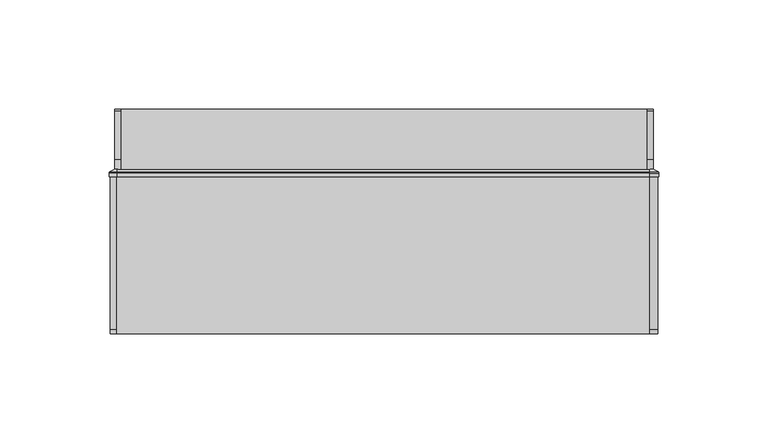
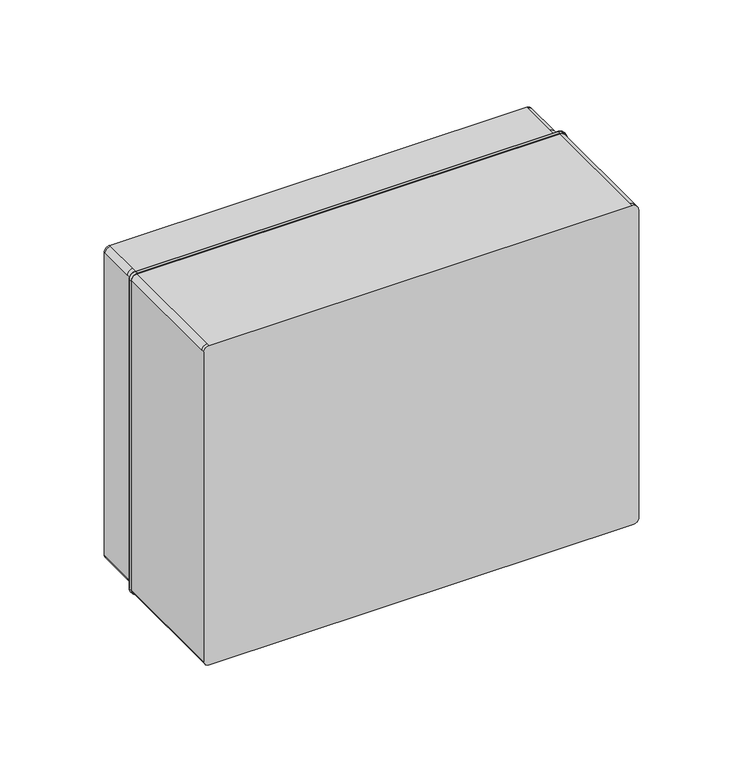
"""IFC4 building model written with IfcOpenShell, lengths in millimetres: proxy geometry, ЩРН-П-12_15_IP65 : ЩРН-П-12_IP65."""

from ifc_helpers import new_model, si_unit, point, frame, origin, place, context, project, spatial, polyline, circle_curve, ellipse_curve, trimmed, outline, extrude, source, transform, mapped, element, save
from ifc_brep_helpers import plane_surface, cylinder_surface, revolved_surface, advanced_brep


def electrical_equipment_db0b3651(model_context):
    return source(origin(), model_context, "Body", "SolidModel", [
        extrude(outline(polyline([(116.5, 83.0), (-116.5, 83.0), (-116.5, 103.0), (116.5, 103.0), (116.5, 83.0)])), frame((0.0, 0.0, -57.5), z_axis=(0.0, 0.0, 1.0), x_axis=(1.0, 0.0, 0.0)), (0.0, 0.0, 1.0), 115.0),
        advanced_brep(
        [(121.5283006, 72.0, 97.5), (125.5, 72.0, 93.5283006), (125.5, 72.0, -94.5), (122.5, 72.0, -97.5), (-122.5, 72.0, -97.5), (-125.5, 72.0, -94.5), (-125.5, 72.0, 94.5), (-122.5, 72.0, 97.5), (-122.5, 2.0, 97.5), (-122.5, 0.0, 97.5), (121.5283006, 0.0, 97.5), (121.5283006, 2.0, 97.5), (-125.5, 2.0, 94.5), (-125.5, 2.0, -94.5), (-125.5, 0.0, -94.5), (-125.5, 0.0, 94.5), (-122.5, 2.0, -97.5), (122.5, 2.0, -97.5), (122.5, 0.0, -97.5), (-122.5, 0.0, -97.5), (125.5, 2.0, -94.5), (125.5, 2.0, 93.5283006), (125.5, 0.0, 93.5283006), (125.5, 0.0, -94.5)],
        [
            (0, 1, circle_curve(frame((121.5283006, 72.0, 93.5283006), z_axis=(0.0, 1.0, 0.0), x_axis=(1.0, 0.0, 0.0)), 3.9716994)),
            (1, 2),
            (2, 3, circle_curve(frame((122.5, 72.0, -94.5), z_axis=(0.0, 1.0, 0.0), x_axis=(1.0, 0.0, 0.0)), 3.0)),
            (3, 4),
            (4, 5, circle_curve(frame((-122.5, 72.0, -94.5), z_axis=(0.0, 1.0, 0.0), x_axis=(1.0, 0.0, 0.0)), 3.0)),
            (5, 6),
            (6, 7, circle_curve(frame((-122.5, 72.0, 94.5), z_axis=(0.0, 1.0, 0.0), x_axis=(1.0, 0.0, 0.0)), 3.0)),
            (7, 0),
            (7, 8),
            (8, 9),
            (9, 10),
            (10, 11),
            (11, 0),
            (6, 12),
            (12, 8, circle_curve(frame((-122.5, 2.0, 94.5), z_axis=(0.0, 1.0, 0.0), x_axis=(1.0, 0.0, 0.0)), 3.0)),
            (5, 13),
            (13, 14),
            (14, 15),
            (15, 12),
            (4, 16),
            (16, 13, circle_curve(frame((-122.5, 2.0, -94.5), z_axis=(0.0, 1.0, 0.0), x_axis=(1.0, 0.0, 0.0)), 3.0)),
            (3, 17),
            (17, 18),
            (18, 19),
            (19, 16),
            (2, 20),
            (20, 17, circle_curve(frame((122.5, 2.0, -94.5), z_axis=(0.0, 1.0, 0.0), x_axis=(1.0, 0.0, 0.0)), 3.0)),
            (1, 21),
            (21, 22),
            (22, 23),
            (23, 20),
            (11, 21, circle_curve(frame((121.5283006, 2.0, 93.5283006), z_axis=(0.0, 1.0, 0.0), x_axis=(1.0, 0.0, 0.0)), 3.9716994)),
            (9, 15, circle_curve(frame((-122.5, 0.0, 94.5), z_axis=(0.0, -1.0, 0.0), x_axis=(1.0, 0.0, 0.0)), 3.0)),
            (14, 19, circle_curve(frame((-122.5, 0.0, -94.5), z_axis=(0.0, -1.0, 0.0), x_axis=(1.0, 0.0, 0.0)), 3.0)),
            (18, 23, circle_curve(frame((122.5, 0.0, -94.5), z_axis=(0.0, -1.0, 0.0), x_axis=(1.0, 0.0, 0.0)), 3.0)),
            (22, 10, circle_curve(frame((121.5283006, 0.0, 93.5283006), z_axis=(0.0, -1.0, 0.0), x_axis=(1.0, 0.0, 0.0)), 3.9716994)),
        ],
        [
            plane_surface(frame((-122.5, 72.0, 97.5), z_axis=(0.0, 1.0, 0.0), x_axis=(1.0, 0.0, 0.0))),
            plane_surface(frame((121.5283006, 2.0, 97.5), z_axis=(0.0, 0.0, 1.0), x_axis=(0.0, 1.0, 0.0))),
            cylinder_surface(frame((-122.5, 72.0, 94.5), z_axis=(0.0, -1.0, 0.0), x_axis=(1.0, 0.0, 0.0)), 3.0),
            plane_surface(frame((-125.5, 2.0, 94.5), z_axis=(-1.0, 0.0, 0.0), x_axis=(0.0, 1.0, 0.0))),
            cylinder_surface(frame((-122.5, 72.0, -94.5), z_axis=(0.0, -1.0, 0.0), x_axis=(1.0, 0.0, 0.0)), 3.0),
            plane_surface(frame((-122.5, 2.0, -97.5), z_axis=(0.0, 0.0, -1.0), x_axis=(0.0, 1.0, 0.0))),
            cylinder_surface(frame((122.5, 72.0, -94.5), z_axis=(0.0, -1.0, 0.0), x_axis=(1.0, 0.0, 0.0)), 3.0),
            plane_surface(frame((125.5, 2.0, -94.5), z_axis=(1.0, 0.0, 0.0), x_axis=(0.0, 1.0, 0.0))),
            cylinder_surface(frame((121.5283006, 72.0, 93.5283006), z_axis=(0.0, -1.0, 0.0), x_axis=(1.0, 0.0, 0.0)), 3.9716994),
            plane_surface(frame((-119.5, 0.0, 94.5), z_axis=(0.0, -1.0, 0.0), x_axis=(0.0, 0.0, 1.0))),
            cylinder_surface(frame((-122.5, 2.0, 94.5), z_axis=(0.0, -1.0, 0.0), x_axis=(1.0, 0.0, 0.0)), 3.0),
            cylinder_surface(frame((-122.5, 2.0, -94.5), z_axis=(0.0, -1.0, 0.0), x_axis=(1.0, 0.0, 0.0)), 3.0),
            cylinder_surface(frame((122.5, 2.0, -94.5), z_axis=(0.0, -1.0, 0.0), x_axis=(1.0, 0.0, 0.0)), 3.0),
            cylinder_surface(frame((121.5283006, 2.0, 93.5283006), z_axis=(0.0, -1.0, 0.0), x_axis=(1.0, 0.0, 0.0)), 3.9716994),
        ],
        [
            (0, [[1, 2, 3, 4, 5, 6, 7, 8]]),
            (1, [[-8, 9, 10, 11, 12, 13]]),
            (2, [[-7, 14, 15, -9]]),
            (3, [[-6, 16, 17, 18, 19, -14]]),
            (4, [[-5, 20, 21, -16]]),
            (5, [[-4, 22, 23, 24, 25, -20]]),
            (6, [[-3, 26, 27, -22]]),
            (7, [[-2, 28, 29, 30, 31, -26]]),
            (8, [[-1, -13, 32, -28]]),
            (9, [[33, -18, 34, -24, 35, -30, 36, -11]]),
            (10, [[-33, -10, -15, -19]]),
            (11, [[-34, -17, -21, -25]]),
            (12, [[-35, -23, -27, -31]]),
            (13, [[-36, -29, -32, -12]]),
        ],
    ),
        advanced_brep(
        [(-116.9911629, 103.0, 57.4981471), (116.9911629, 103.0, 57.4981471), (116.9911629, 72.0, 57.4981471), (-116.9911629, 72.0, 57.4981471), (-116.9911629, 72.0, -57.4981471), (116.9911629, 72.0, -57.4981471), (116.9911629, 103.0, -57.4981471), (-116.9911629, 103.0, -57.4981471), (120.5, 80.0, 95.5), (120.5, 102.0, 95.5), (120.5, 103.0, 95.5), (-120.5, 103.0, 95.5), (-120.5, 102.0, 95.5), (-120.5, 80.0, 95.5), (-120.5, 72.0, 95.5), (120.5, 72.0, 95.5), (-123.5, 102.0, 92.5), (-123.5, 80.0, 92.5), (-123.5, 103.0, 92.5), (-123.5, 103.0, -92.5), (-123.5, 102.0, -92.5), (-123.5, 80.0, -92.5), (-123.5, 72.0, -92.5), (-123.5, 72.0, 92.5), (-120.5, 102.0, -95.5), (-120.5, 80.0, -95.5), (-120.5, 103.0, -95.5), (120.5, 103.0, -95.5), (120.5, 102.0, -95.5), (120.5, 80.0, -95.5), (120.5, 72.0, -95.5), (-120.5, 72.0, -95.5), (123.5, 102.0, -92.5), (123.5, 80.0, -92.5), (123.5, 103.0, -92.5), (123.5, 103.0, 92.5), (123.5, 102.0, 92.5), (123.5, 80.0, 92.5), (123.5, 72.0, 92.5), (123.5, 72.0, -92.5)],
        [
            (0, 1),
            (1, 2),
            (2, 3),
            (3, 0),
            (4, 5),
            (5, 6),
            (6, 7),
            (7, 4),
            (8, 9),
            (9, 10),
            (10, 11),
            (11, 12),
            (12, 13),
            (13, 14),
            (14, 15),
            (15, 8),
            (12, 16, circle_curve(frame((-120.5, 102.0, 92.5), z_axis=(0.0, -1.0, 0.0), x_axis=(1.0, 0.0, 0.0)), 3.0)),
            (16, 17),
            (17, 13, circle_curve(frame((-120.5, 80.0, 92.5), z_axis=(0.0, 1.0, 0.0), x_axis=(1.0, 0.0, 0.0)), 3.0)),
            (16, 18),
            (18, 19),
            (19, 20),
            (20, 21),
            (21, 22),
            (22, 23),
            (23, 17),
            (20, 24, circle_curve(frame((-120.5, 102.0, -92.5), z_axis=(0.0, -1.0, 0.0), x_axis=(1.0, 0.0, 0.0)), 3.0)),
            (24, 25),
            (25, 21, circle_curve(frame((-120.5, 80.0, -92.5), z_axis=(0.0, 1.0, 0.0), x_axis=(1.0, 0.0, 0.0)), 3.0)),
            (24, 26),
            (26, 27),
            (27, 28),
            (28, 29),
            (29, 30),
            (30, 31),
            (31, 25),
            (28, 32, circle_curve(frame((120.5, 102.0, -92.5), z_axis=(0.0, -1.0, 0.0), x_axis=(1.0, 0.0, 0.0)), 3.0)),
            (32, 33),
            (33, 29, circle_curve(frame((120.5, 80.0, -92.5), z_axis=(0.0, 1.0, 0.0), x_axis=(1.0, 0.0, 0.0)), 3.0)),
            (32, 34),
            (34, 35),
            (35, 36),
            (36, 37),
            (37, 38),
            (38, 39),
            (39, 33),
            (8, 37, circle_curve(frame((120.5, 80.0, 92.5), z_axis=(0.0, 1.0, 0.0), x_axis=(1.0, 0.0, 0.0)), 3.0)),
            (36, 9, circle_curve(frame((120.5, 102.0, 92.5), z_axis=(0.0, -1.0, 0.0), x_axis=(1.0, 0.0, 0.0)), 3.0)),
            (14, 23, circle_curve(frame((-120.5, 72.0, 92.5), z_axis=(0.0, -1.0, 0.0), x_axis=(1.0, 0.0, 0.0)), 3.0)),
            (22, 31, circle_curve(frame((-120.5, 72.0, -92.5), z_axis=(0.0, -1.0, 0.0), x_axis=(1.0, 0.0, 0.0)), 3.0)),
            (30, 39, circle_curve(frame((120.5, 72.0, -92.5), z_axis=(0.0, -1.0, 0.0), x_axis=(1.0, 0.0, 0.0)), 3.0)),
            (38, 15, circle_curve(frame((120.5, 72.0, 92.5), z_axis=(0.0, -1.0, 0.0), x_axis=(1.0, 0.0, 0.0)), 3.0)),
            (2, 5),
            (4, 3),
            (10, 35, circle_curve(frame((120.5, 103.0, 92.5), z_axis=(0.0, 1.0, 0.0), x_axis=(1.0, 0.0, 0.0)), 3.0)),
            (34, 27, circle_curve(frame((120.5, 103.0, -92.5), z_axis=(0.0, 1.0, 0.0), x_axis=(1.0, 0.0, 0.0)), 3.0)),
            (26, 19, circle_curve(frame((-120.5, 103.0, -92.5), z_axis=(0.0, 1.0, 0.0), x_axis=(1.0, 0.0, 0.0)), 3.0)),
            (18, 11, circle_curve(frame((-120.5, 103.0, 92.5), z_axis=(0.0, 1.0, 0.0), x_axis=(1.0, 0.0, 0.0)), 3.0)),
            (0, 7),
            (6, 1),
        ],
        [
            plane_surface(frame((-121.5, 80.0, 57.4981471), z_axis=(0.0, 0.0, -1.0), x_axis=(0.0, 1.0, 0.0))),
            plane_surface(frame((121.5, 80.0, -57.4981471), z_axis=(0.0, 0.0, 1.0), x_axis=(0.0, 1.0, 0.0))),
            plane_surface(frame((120.5, 80.0, 95.5), z_axis=(0.0, 0.0, 1.0), x_axis=(0.0, 1.0, 0.0))),
            cylinder_surface(frame((-120.5, 102.0, 92.5), z_axis=(0.0, -1.0, 0.0), x_axis=(1.0, 0.0, 0.0)), 3.0),
            plane_surface(frame((-123.5, 80.0, 92.5), z_axis=(-1.0, 0.0, 0.0), x_axis=(0.0, 1.0, 0.0))),
            cylinder_surface(frame((-120.5, 102.0, -92.5), z_axis=(0.0, -1.0, 0.0), x_axis=(1.0, 0.0, 0.0)), 3.0),
            plane_surface(frame((-120.5, 80.0, -95.5), z_axis=(0.0, 0.0, -1.0), x_axis=(0.0, 1.0, 0.0))),
            cylinder_surface(frame((120.5, 102.0, -92.5), z_axis=(0.0, -1.0, 0.0), x_axis=(1.0, 0.0, 0.0)), 3.0),
            plane_surface(frame((123.5, 80.0, -92.5), z_axis=(1.0, 0.0, 0.0), x_axis=(0.0, 1.0, 0.0))),
            cylinder_surface(frame((120.5, 102.0, 92.5), z_axis=(0.0, -1.0, 0.0), x_axis=(1.0, 0.0, 0.0)), 3.0),
            plane_surface(frame((116.9911629, 72.0, 57.4981471), z_axis=(0.0, -1.0, 0.0), x_axis=(0.0, 0.0, -1.0))),
            plane_surface(frame((116.9911629, 103.0, 57.4981471), z_axis=(0.0, 1.0, 0.0), x_axis=(0.0, 0.0, 1.0))),
            plane_surface(frame((-116.9911629, 72.0, -57.4981471), z_axis=(1.0, 0.0, 0.0), x_axis=(0.0, 1.0, 0.0))),
            plane_surface(frame((116.9911629, 72.0, 57.4981471), z_axis=(-1.0, 0.0, 0.0), x_axis=(0.0, 1.0, 0.0))),
            cylinder_surface(frame((-120.5, 103.0, 92.5), z_axis=(0.0, -1.0, 0.0), x_axis=(1.0, 0.0, 0.0)), 3.0),
            cylinder_surface(frame((-120.5, 103.0, -92.5), z_axis=(0.0, -1.0, 0.0), x_axis=(1.0, 0.0, 0.0)), 3.0),
            cylinder_surface(frame((120.5, 103.0, -92.5), z_axis=(0.0, -1.0, 0.0), x_axis=(1.0, 0.0, 0.0)), 3.0),
            cylinder_surface(frame((120.5, 103.0, 92.5), z_axis=(0.0, -1.0, 0.0), x_axis=(1.0, 0.0, 0.0)), 3.0),
        ],
        [
            (0, [[1, 2, 3, 4]]),
            (1, [[5, 6, 7, 8]]),
            (2, [[9, 10, 11, 12, 13, 14, 15, 16]]),
            (3, [[-13, 17, 18, 19]]),
            (4, [[-18, 20, 21, 22, 23, 24, 25, 26]]),
            (5, [[-23, 27, 28, 29]]),
            (6, [[-28, 30, 31, 32, 33, 34, 35, 36]]),
            (7, [[-33, 37, 38, 39]]),
            (8, [[-38, 40, 41, 42, 43, 44, 45, 46]]),
            (9, [[-9, 47, -43, 48]]),
            (10, [[-15, 49, -25, 50, -35, 51, -45, 52], [53, -5, 54, -3]]),
            (11, [[55, -41, 56, -31, 57, -21, 58, -11], [-1, 59, -7, 60]]),
            (12, [[-4, -54, -8, -59]]),
            (13, [[-6, -53, -2, -60]]),
            (14, [[-49, -14, -19, -26]]),
            (14, [[-58, -20, -17, -12]]),
            (15, [[-50, -24, -29, -36]]),
            (15, [[-57, -30, -27, -22]]),
            (16, [[-51, -34, -39, -46]]),
            (16, [[-56, -40, -37, -32]]),
            (17, [[-52, -44, -47, -16]]),
            (17, [[-55, -10, -48, -42]]),
        ],
    ),
        advanced_brep(
        [(-125.9898142, 72.0, 94.507075), (-122.4776209, 72.0, 98.0192684), (-122.4776209, 73.566402, 98.0192684), (-125.9898142, 73.566402, 94.507075), (-123.4898142, 75.5193543, 94.507075), (-122.4776209, 75.5193543, 95.5192684), (-122.4776209, 72.0, 95.5192684), (-123.4898142, 72.0, 94.507075), (-125.9898142, 73.566402, -94.4754068), (-125.9898142, 72.0, -94.4754068), (-123.4898142, 72.0, -94.4754068), (-123.4898142, 75.5193543, -94.4754068), (-122.498733, 72.0, -97.966488), (-122.498733, 73.566402, -97.966488), (-122.498733, 75.5193543, -95.466488), (-122.498733, 72.0, -95.466488), (122.4496724, 73.566402, -97.966488), (122.4496724, 72.0, -97.966488), (122.4496724, 72.0, -95.466488), (122.4496724, 75.5193543, -95.466488), (126.0141503, 72.0, -94.40201), (126.0141503, 73.566402, -94.40201), (123.5141503, 75.5193543, -94.40201), (123.5141503, 72.0, -94.40201), (121.5135486, 72.0, 98.0192684), (121.5135486, 73.566402, 98.0192684), (121.5135486, 75.5193543, 95.5192684), (121.5135486, 72.0, 95.5192684), (-125.6014108, 74.2523963, 94.507075), (-122.4776209, 74.2523963, 97.630865), (-125.6014108, 74.2523963, -94.4754068), (-122.498733, 74.2523963, -97.5780846), (122.4496724, 74.2523963, -97.5780846), (125.6257469, 74.2523963, -94.40201), (121.5135486, 74.2523963, 97.630865), (123.5141503, 75.5193543, 93.5186666), (125.6257469, 74.2523963, 93.5186666), (126.0141503, 73.566402, 93.5186666), (126.0141503, 72.0, 93.5186666), (123.5141503, 72.0, 93.5186666)],
        [
            (0, 1, circle_curve(frame((-122.4776209, 72.0, 94.507075), z_axis=(0.0, 1.0, 0.0), x_axis=(0.0, 0.0, 1.0)), 3.5121934)),
            (1, 2),
            (2, 3, circle_curve(frame((-122.4776209, 73.566402, 94.507075), z_axis=(0.0, -1.0, 0.0), x_axis=(0.0, 0.0, 1.0)), 3.5121934)),
            (3, 0),
            (4, 5, circle_curve(frame((-122.4776209, 75.5193543, 94.507075), z_axis=(0.0, 1.0, 0.0), x_axis=(0.0, 0.0, 1.0)), 1.0121934)),
            (5, 6),
            (6, 7, circle_curve(frame((-122.4776209, 72.0, 94.507075), z_axis=(0.0, -1.0, 0.0), x_axis=(0.0, 0.0, 1.0)), 1.0121934)),
            (7, 4),
            (3, 8),
            (8, 9),
            (9, 0),
            (7, 10),
            (10, 11),
            (11, 4),
            (12, 9, circle_curve(frame((-122.498733, 72.0, -94.4754068), z_axis=(0.0, 1.0, 0.0), x_axis=(-1.0, 0.0, 0.0)), 3.4910812)),
            (8, 13, circle_curve(frame((-122.498733, 73.566402, -94.4754068), z_axis=(0.0, -1.0, 0.0), x_axis=(-1.0, 0.0, 0.0)), 3.4910812)),
            (13, 12),
            (14, 11, circle_curve(frame((-122.498733, 75.5193543, -94.4754068), z_axis=(0.0, 1.0, 0.0), x_axis=(-1.0, 0.0, 0.0)), 0.9910812)),
            (10, 15, circle_curve(frame((-122.498733, 72.0, -94.4754068), z_axis=(0.0, -1.0, 0.0), x_axis=(-1.0, 0.0, 0.0)), 0.9910812)),
            (15, 14),
            (13, 16),
            (16, 17),
            (17, 12),
            (15, 18),
            (18, 19),
            (19, 14),
            (20, 17, circle_curve(frame((122.4496724, 72.0, -94.40201), z_axis=(0.0, 1.0, 0.0), x_axis=(0.0, 0.0, -1.0)), 3.564478)),
            (16, 21, circle_curve(frame((122.4496724, 73.566402, -94.40201), z_axis=(0.0, -1.0, 0.0), x_axis=(0.0, 0.0, -1.0)), 3.564478)),
            (21, 20),
            (22, 19, circle_curve(frame((122.4496724, 75.5193543, -94.40201), z_axis=(0.0, 1.0, 0.0), x_axis=(0.0, 0.0, -1.0)), 1.064478)),
            (18, 23, circle_curve(frame((122.4496724, 72.0, -94.40201), z_axis=(0.0, -1.0, 0.0), x_axis=(0.0, 0.0, -1.0)), 1.064478)),
            (23, 22),
            (24, 25),
            (25, 2),
            (1, 24),
            (26, 27),
            (27, 6),
            (5, 26),
            (28, 29, circle_curve(frame((-122.4776209, 74.2523963, 94.507075), z_axis=(0.0, 1.0, 0.0), x_axis=(0.0, 0.0, 1.0)), 3.12379)),
            (29, 5),
            (4, 28),
            (2, 29, circle_curve(frame((-122.4776209, 73.566402, 97.2192684), z_axis=(-1.0, 0.0, 0.0), x_axis=(0.0, 0.0, -1.0)), 0.8)),
            (28, 3, circle_curve(frame((-125.1898142, 73.566402, 94.507075), z_axis=(0.0, 0.0, 1.0), x_axis=(1.0, 0.0, 0.0)), 0.8)),
            (11, 30),
            (30, 28),
            (30, 8, circle_curve(frame((-125.1898142, 73.566402, -94.4754068), z_axis=(0.0, 0.0, 1.0), x_axis=(1.0, 0.0, 0.0)), 0.8)),
            (31, 30, circle_curve(frame((-122.498733, 74.2523963, -94.4754068), z_axis=(0.0, 1.0, 0.0), x_axis=(-1.0, 0.0, 0.0)), 3.1026778)),
            (14, 31),
            (31, 13, circle_curve(frame((-122.498733, 73.566402, -97.166488), z_axis=(-1.0, 0.0, 0.0), x_axis=(0.0, 0.0, 1.0)), 0.8)),
            (19, 32),
            (32, 31),
            (32, 16, circle_curve(frame((122.4496724, 73.566402, -97.166488), z_axis=(-1.0, 0.0, 0.0), x_axis=(0.0, 0.0, 1.0)), 0.8)),
            (33, 32, circle_curve(frame((122.4496724, 74.2523963, -94.40201), z_axis=(0.0, 1.0, 0.0), x_axis=(0.0, 0.0, -1.0)), 3.1760746)),
            (22, 33),
            (33, 21, circle_curve(frame((125.2141503, 73.566402, -94.40201), z_axis=(0.0, 0.0, -1.0), x_axis=(-1.0, 0.0, 0.0)), 0.8)),
            (34, 26),
            (29, 34),
            (25, 34, circle_curve(frame((121.5135486, 73.566402, 97.2192684), z_axis=(-1.0, 0.0, 0.0), x_axis=(0.0, 0.0, -1.0)), 0.8)),
            (22, 35),
            (35, 36),
            (36, 33),
            (36, 37, circle_curve(frame((125.2141503, 73.566402, 93.5186666), z_axis=(0.0, 0.0, -1.0), x_axis=(-1.0, 0.0, 0.0)), 0.8)),
            (37, 21),
            (37, 38),
            (38, 20),
            (23, 39),
            (39, 35),
            (34, 36, circle_curve(frame((121.5135486, 74.2523963, 93.5186666), z_axis=(0.0, 1.0, 0.0), x_axis=(1.0, 0.0, 0.0)), 4.1121984)),
            (35, 26, circle_curve(frame((121.5135486, 75.5193543, 93.5186666), z_axis=(0.0, -1.0, 0.0), x_axis=(1.0, 0.0, 0.0)), 2.0006018)),
            (25, 37, circle_curve(frame((121.5135486, 73.566402, 93.5186666), z_axis=(0.0, 1.0, 0.0), x_axis=(1.0, 0.0, 0.0)), 4.5006018)),
            (24, 38, circle_curve(frame((121.5135486, 72.0, 93.5186666), z_axis=(0.0, 1.0, 0.0), x_axis=(1.0, 0.0, 0.0)), 4.5006018)),
            (27, 39, circle_curve(frame((121.5135486, 72.0, 93.5186666), z_axis=(0.0, 1.0, 0.0), x_axis=(1.0, 0.0, 0.0)), 2.0006018)),
        ],
        [
            cylinder_surface(frame((-122.4776209, 0.0, 94.507075), z_axis=(0.0, -1.0, 0.0), x_axis=(0.0, 0.0, 1.0)), 3.5121934),
            revolved_surface(polyline([(-122.4776209, 72.0, 95.5192684), (-122.4776209, 75.5193543, 95.5192684)]), (-122.4776209, 0.0, 94.507075), (0.0, -1.0, 0.0)),
            plane_surface(frame((-125.9898142, 73.566402, 94.507075), z_axis=(-1.0, 0.0, 0.0), x_axis=(0.0, 0.0, -1.0))),
            plane_surface(frame((-123.4898142, 72.0, 94.507075), z_axis=(1.0, 0.0, 0.0), x_axis=(0.0, 0.0, -1.0))),
            cylinder_surface(frame((-122.498733, 0.0, -94.4754068), z_axis=(0.0, -1.0, 0.0), x_axis=(-1.0, 0.0, 0.0)), 3.4910812),
            revolved_surface(polyline([(-123.4898142, 72.0, -94.4754068), (-123.4898142, 75.5193543, -94.4754068)]), (-122.498733, 0.0, -94.4754068), (0.0, -1.0, 0.0)),
            plane_surface(frame((-122.498733, 73.566402, -97.966488), z_axis=(0.0, 0.0, -1.0), x_axis=(1.0, 0.0, 0.0))),
            plane_surface(frame((-122.498733, 72.0, -95.466488), z_axis=(0.0, 0.0, 1.0), x_axis=(1.0, 0.0, 0.0))),
            cylinder_surface(frame((122.4496724, 0.0, -94.40201), z_axis=(0.0, -1.0, 0.0), x_axis=(0.0, 0.0, -1.0)), 3.564478),
            revolved_surface(polyline([(122.4496724, 72.0, -95.466488), (122.4496724, 75.5193543, -95.466488)]), (122.4496724, 0.0, -94.40201), (0.0, -1.0, 0.0)),
            plane_surface(frame((121.5135486, 73.566402, 98.0192684), z_axis=(0.0, 0.0, 1.0), x_axis=(-1.0, 0.0, 0.0))),
            plane_surface(frame((121.5135486, 72.0, 95.5192684), z_axis=(0.0, 0.0, -1.0), x_axis=(-1.0, 0.0, 0.0))),
            revolved_surface(polyline([(-122.4776209, 75.5193543, 95.5192684), (-122.4776209, 74.2523963, 97.630865)]), (-122.4776209, 0.0, 94.507075), (0.0, -1.0, 0.0)),
            revolved_surface(trimmed(ellipse_curve(frame((-122.4776209, 73.566402, 97.2192684), z_axis=(1.0, 0.0, 0.0), x_axis=(0.0, 0.0, -1.0)), 0.8, 0.8), [point((-122.4776209, 74.2523963, 97.630865))], [point((-122.4776209, 73.566402, 98.0192684))], True, "CARTESIAN"), (-122.4776209, 0.0, 94.507075), (0.0, -1.0, 0.0)),
            plane_surface(frame((-123.4898142, 75.5193543, 94.507075), z_axis=(-0.5144957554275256, 0.8574929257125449, 0.0), x_axis=(0.0, 0.0, -1.0))),
            cylinder_surface(frame((-125.1898142, 73.566402, 94.507075), z_axis=(0.0, 0.0, 1.0), x_axis=(1.0, 0.0, 0.0)), 0.8),
            revolved_surface(polyline([(-123.4898142, 75.5193543, -94.4754068), (-125.6014108, 74.2523963, -94.4754068)]), (-122.498733, 0.0, -94.4754068), (0.0, -1.0, 0.0)),
            revolved_surface(trimmed(ellipse_curve(frame((-125.1898142, 73.566402, -94.4754068), z_axis=(0.0, 0.0, 1.0), x_axis=(1.0, 0.0, 0.0)), 0.8, 0.8), [point((-125.6014108, 74.2523963, -94.4754068))], [point((-125.9898142, 73.566402, -94.4754068))], True, "CARTESIAN"), (-122.498733, 0.0, -94.4754068), (0.0, -1.0, 0.0)),
            plane_surface(frame((-122.498733, 75.5193543, -95.466488), z_axis=(0.0, 0.8574929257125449, -0.5144957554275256), x_axis=(1.0, 0.0, 0.0))),
            cylinder_surface(frame((-122.498733, 73.566402, -97.166488), z_axis=(-1.0, 0.0, 0.0), x_axis=(0.0, 0.0, 1.0)), 0.8),
            revolved_surface(polyline([(122.4496724, 75.5193543, -95.466488), (122.4496724, 74.2523963, -97.5780846)]), (122.4496724, 0.0, -94.40201), (0.0, -1.0, 0.0)),
            revolved_surface(trimmed(ellipse_curve(frame((122.4496724, 73.566402, -97.166488), z_axis=(-1.0, 0.0, 0.0), x_axis=(0.0, 0.0, 1.0)), 0.8, 0.8), [point((122.4496724, 74.2523963, -97.5780846))], [point((122.4496724, 73.566402, -97.966488))], True, "CARTESIAN"), (122.4496724, 0.0, -94.40201), (0.0, -1.0, 0.0)),
            plane_surface(frame((121.5135486, 75.5193543, 95.5192684), z_axis=(0.0, 0.8574929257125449, 0.5144957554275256), x_axis=(-1.0, 0.0, 0.0))),
            cylinder_surface(frame((121.5135486, 73.566402, 97.2192684), z_axis=(1.0, 0.0, 0.0), x_axis=(0.0, 0.0, -1.0)), 0.8),
            plane_surface(frame((123.5141503, 75.5193543, -94.40201), z_axis=(0.5144957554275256, 0.8574929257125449, 0.0), x_axis=(0.0, 0.0, 1.0))),
            cylinder_surface(frame((125.2141503, 73.566402, -94.40201), z_axis=(0.0, 0.0, -1.0), x_axis=(-1.0, 0.0, 0.0)), 0.8),
            plane_surface(frame((126.0141503, 73.566402, -94.40201), z_axis=(1.0, 0.0, 0.0), x_axis=(0.0, 0.0, 1.0))),
            plane_surface(frame((123.5141503, 72.0, -94.40201), z_axis=(-1.0, 0.0, 0.0), x_axis=(0.0, 0.0, 1.0))),
            revolved_surface(polyline([(123.5141503, 75.5193543, 93.5186666), (125.6257469, 74.2523963, 93.5186666)]), (121.5135486, 0.0, 93.5186666), (0.0, -1.0, 0.0)),
            revolved_surface(trimmed(ellipse_curve(frame((125.2141503, 73.566402, 93.5186666), z_axis=(0.0, 0.0, -1.0), x_axis=(-1.0, 0.0, 0.0)), 0.8, 0.8), [point((125.6257469, 74.2523963, 93.5186666))], [point((126.0141503, 73.566402, 93.5186666))], True, "CARTESIAN"), (121.5135486, 0.0, 93.5186666), (0.0, -1.0, 0.0)),
            cylinder_surface(frame((121.5135486, 0.0, 93.5186666), z_axis=(0.0, -1.0, 0.0), x_axis=(1.0, 0.0, 0.0)), 4.5006018),
            plane_surface(frame((121.5135486, 72.0, 93.5186666), z_axis=(0.0, -1.0, 0.0), x_axis=(1.0, 0.0, 0.0))),
            revolved_surface(polyline([(123.51415039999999, 72.0, 93.5186666), (123.51415039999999, 75.5193543, 93.5186666)]), (121.5135486, 0.0, 93.5186666), (0.0, -1.0, 0.0)),
        ],
        [
            (0, [[1, 2, 3, 4]]),
            (1, [[5, 6, 7, 8]]),
            (2, [[-4, 9, 10, 11]]),
            (3, [[-8, 12, 13, 14]]),
            (4, [[15, -10, 16, 17]]),
            (5, [[18, -13, 19, 20]]),
            (6, [[-17, 21, 22, 23]]),
            (7, [[-20, 24, 25, 26]]),
            (8, [[27, -22, 28, 29]]),
            (9, [[30, -25, 31, 32]]),
            (10, [[33, 34, -2, 35]]),
            (11, [[36, 37, -6, 38]]),
            (12, [[39, 40, -5, 41]]),
            (13, [[-3, 42, -39, 43]]),
            (14, [[-41, -14, 44, 45]]),
            (15, [[-43, -45, 46, -9]]),
            (16, [[47, -44, -18, 48]]),
            (17, [[-16, -46, -47, 49]]),
            (18, [[-48, -26, 50, 51]]),
            (19, [[-49, -51, 52, -21]]),
            (20, [[53, -50, -30, 54]]),
            (21, [[-28, -52, -53, 55]]),
            (22, [[56, -38, -40, 57]]),
            (23, [[58, -57, -42, -34]]),
            (24, [[-54, 59, 60, 61]]),
            (25, [[-55, -61, 62, 63]]),
            (26, [[-29, -63, 64, 65]]),
            (27, [[-32, 66, 67, -59]]),
            (28, [[68, -60, 69, -56]]),
            (29, [[70, -62, -68, -58]]),
            (30, [[71, -64, -70, -33]]),
            (31, [[-27, -65, -71, -35, -1, -11, -15, -23], [72, -66, -31, -24, -19, -12, -7, -37]]),
            (32, [[-69, -67, -72, -36]]),
        ],
    ),
    ])


if __name__ == "__main__":
    model = new_model("IFC4")
    model_context = context("Model", 3, world=origin())
    ifc_project = project(units=[si_unit("LENGTHUNIT", "METRE", prefix="MILLI")], contexts=[model_context])
    site = spatial("IfcSite", under=ifc_project)
    building = spatial("IfcBuilding", under=site)
    placement = place(None, origin())
    electrical_equipment_shape = electrical_equipment_db0b3651(model_context)
    element("IfcBuildingElementProxy", 1, Name="ЩРН-П-12_15_IP65 : ЩРН-П-12_IP65", ObjectType="ЩРН-П-12_15_IP65 : ЩРН-П-12_IP65", at=placement, inside=building, context=model_context, shape_type="MappedRepresentation", body=[
        mapped(electrical_equipment_shape, transform((0.0, 0.0, 0.0), x_axis=(1.0, 0.0, 0.0), y_axis=(0.0, 1.0, 0.0), z_axis=(0.0, 0.0, 1.0))),
    ])
    save(model, "model.ifc")
